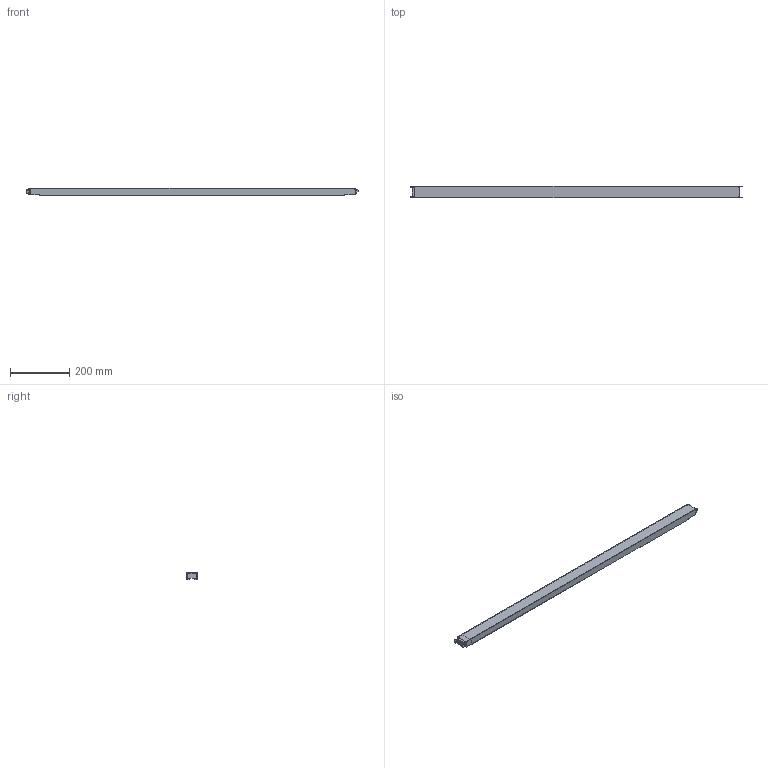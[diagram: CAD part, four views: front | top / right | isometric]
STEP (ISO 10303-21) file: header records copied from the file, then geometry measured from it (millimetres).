
FILE_DESCRIPTION( ( 'STEP AP214' ), '1' );
FILE_NAME( 'p:/temp/worker_138/temp/exporttempdir_4864_48_vzu8A/format_0/CLPF1200(0).stp', '2021-03-15T14:39:51', ( 'License CC BY-ND 4.0' ), ( 'CADENAS' ), ' ', 'PARTsolutions', ' ' );
FILE_SCHEMA( ( 'AUTOMOTIVE_DESIGN { 1 0 10303 214 1 1 1 1 }' ) );
Length unit declared in the file: millimetre
Products named in the file (3): CLPF1200(0); _CLPF1200(0)_P1; _CLPFXXXX(0)_P2
Assembly tree (2 placements, depth 2):
  CLPF1200(0)
    _CLPF1200(0)_P1
    _CLPFXXXX(0)_P2
Bounding box: 1124.47 x 40 x 25 mm (x, y, z)
Volume: 177041 mm3; surface area: 237153.9 mm2
Topology: 2 solids, 2 shells, 94 faces, 282 edges, 188 vertices
Faces by surface type: plane 90, cylinder 4
Entity records: 3928 total; most frequent: CARTESIAN_POINT 567, ORIENTED_EDGE 564, DIRECTION 484, EDGE_CURVE 282, LINE 274, VECTOR 274, VERTEX_POINT 188, AXIS2_PLACEMENT_3D 105
